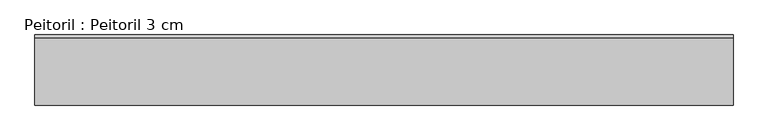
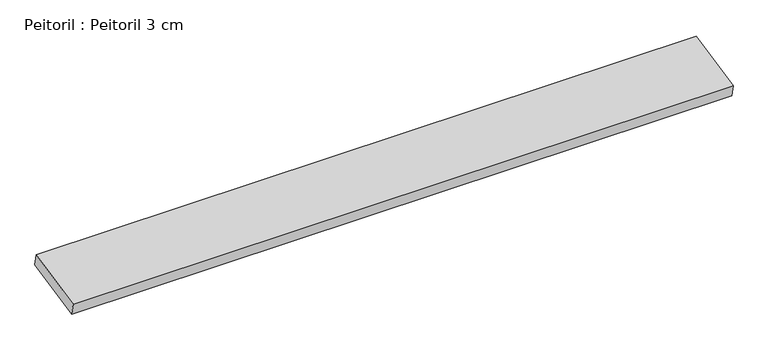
"""IFC4 building model written with IfcOpenShell, lengths in millimetres: proxy geometry, Peitoril : Peitoril 3 cm."""

from ifc_helpers import new_model, si_unit, frame, origin, place, context, project, spatial, polyline, outline, extrude, source, transform, mapped, element, save


def peitoril_peitoril_3_cm_04364ac9(model_context):
    return source(origin(), model_context, "Body", "SweptSolid", [
        extrude(outline(polyline([(0.0, 158.0245115), (1600.0, 158.0245115), (1600.0, 0.0), (0.0, 0.0), (0.0, 158.0245115)])), frame((961.81445, 32.3195188, 880.655572), z_axis=(0.0, -0.20791169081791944, 0.9781476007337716), x_axis=(-1.0, 0.0, 0.0)), (0.0, 0.0, 1.0), 30.0),
    ])


if __name__ == "__main__":
    model = new_model("IFC4")
    model_context = context("Model", 3, world=origin())
    ifc_project = project(units=[si_unit("LENGTHUNIT", "METRE", prefix="MILLI")], contexts=[model_context])
    site = spatial("IfcSite", under=ifc_project)
    building = spatial("IfcBuilding", under=site)
    placement = place(None, origin())
    peitoril_peitoril_3_cm_shape = peitoril_peitoril_3_cm_04364ac9(model_context)
    element("IfcBuildingElementProxy", 1, Name="Peitoril : Peitoril 3 cm", ObjectType="Peitoril : Peitoril 3 cm", at=placement, inside=building, context=model_context, shape_type="MappedRepresentation", body=[
        mapped(peitoril_peitoril_3_cm_shape, transform((0.0, 0.0, 0.0), x_axis=(1.0, 0.0, 0.0), y_axis=(0.0, 1.0, 0.0), z_axis=(0.0, 0.0, 1.0))),
    ])
    save(model, "model.ifc")
